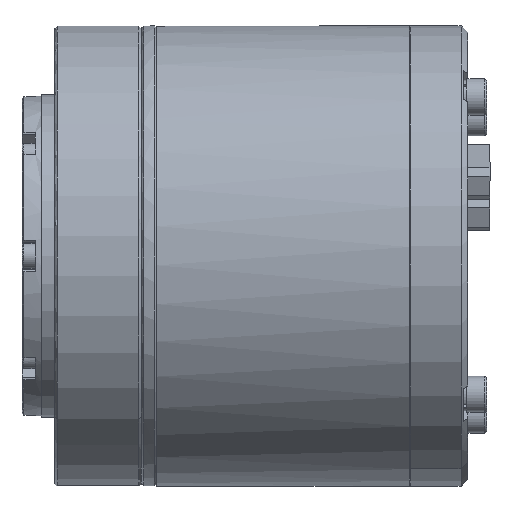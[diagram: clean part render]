
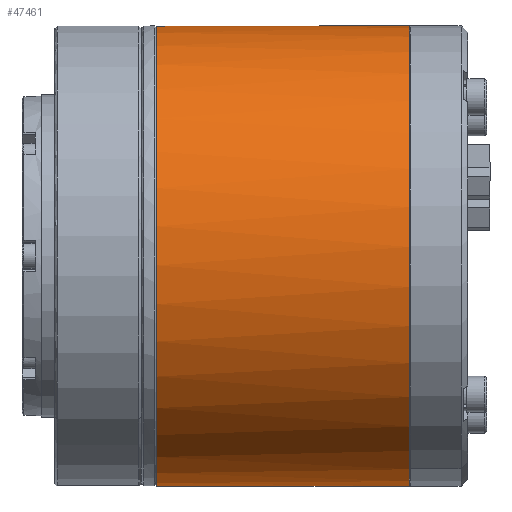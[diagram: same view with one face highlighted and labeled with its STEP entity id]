
A CAD part, front view. The second image highlights one B-rep face of the part: STEP entity #47461.
In plain terms, the highlighted cylindrical face has radius 35 mm (diameter 70 mm), a full revolution.
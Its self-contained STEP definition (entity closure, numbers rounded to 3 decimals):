
#231 = DIRECTION ( 'NONE',  ( 1., 0., 0. ) ) ;
#1231 = AXIS2_PLACEMENT_3D ( 'NONE', #12809, #231, #4916 ) ;
#4916 = DIRECTION ( 'NONE',  ( 0., 0.926, -0.378 ) ) ;
#5230 = DIRECTION ( 'NONE',  ( 0., 0.926, -0.378 ) ) ;
#8354 = FACE_OUTER_BOUND ( 'NONE', #9514, .T. ) ;
#8996 = CARTESIAN_POINT ( 'NONE',  ( 26.519, 1.046, 0. ) ) ;
#9100 = EDGE_LOOP ( 'NONE', ( #18293 ) ) ;
#9514 = EDGE_LOOP ( 'NONE', ( #42289 ) ) ;
#12045 = CYLINDRICAL_SURFACE ( 'NONE', #1231, 35. ) ;
#12809 = CARTESIAN_POINT ( 'NONE',  ( 31.868, 1.046, 0. ) ) ;
#14977 = CIRCLE ( 'NONE', #22479, 35. ) ;
#16228 = FACE_OUTER_BOUND ( 'NONE', #9100, .T. ) ;
#16469 = CARTESIAN_POINT ( 'NONE',  ( 26.519, 1.046, -35. ) ) ;
#18293 = ORIENTED_EDGE ( 'NONE', *, *, #36442, .F. ) ;
#22479 = AXIS2_PLACEMENT_3D ( 'NONE', #36199, #24374, #5230 ) ;
#24374 = DIRECTION ( 'NONE',  ( 1., 0., 0. ) ) ;
#30425 = EDGE_CURVE ( 'NONE', #51618, #51618, #14977, .T. ) ;
#35116 = CARTESIAN_POINT ( 'NONE',  ( 64.819, 33.442, -13.247 ) ) ;
#36199 = CARTESIAN_POINT ( 'NONE',  ( 64.819, 1.046, 0. ) ) ;
#36442 = EDGE_CURVE ( 'NONE', #44269, #44269, #39316, .T. ) ;
#37038 = DIRECTION ( 'NONE',  ( -1., 0., 0. ) ) ;
#39316 = CIRCLE ( 'NONE', #45179, 35. ) ;
#41777 = DIRECTION ( 'NONE',  ( 0., 0., -1. ) ) ;
#42289 = ORIENTED_EDGE ( 'NONE', *, *, #30425, .F. ) ;
#44269 = VERTEX_POINT ( 'NONE', #16469 ) ;
#45179 = AXIS2_PLACEMENT_3D ( 'NONE', #8996, #37038, #41777 ) ;
#47461 = ADVANCED_FACE ( 'NONE', ( #8354, #16228 ), #12045, .T. ) ;
#51618 = VERTEX_POINT ( 'NONE', #35116 ) ;
